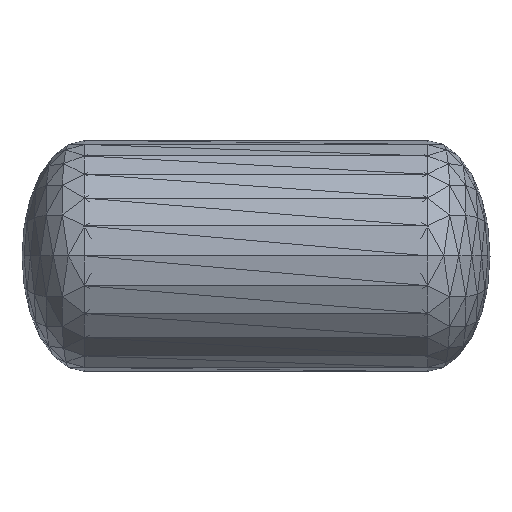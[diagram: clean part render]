
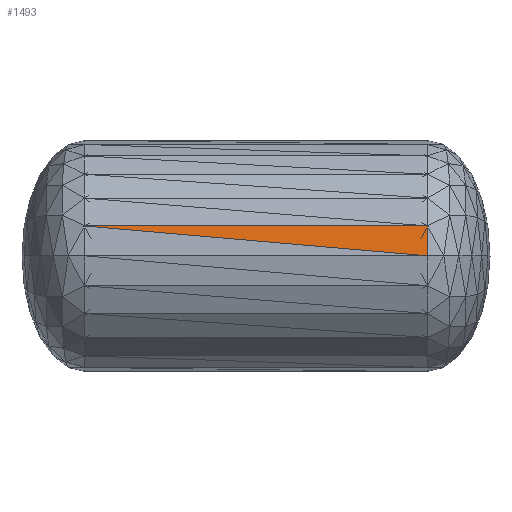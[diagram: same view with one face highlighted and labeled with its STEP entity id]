
A CAD part, top view. The second image highlights one B-rep face of the part: STEP entity #1493.
In plain terms, the highlighted planar face has unit normal (0, -0.13, -0.992).
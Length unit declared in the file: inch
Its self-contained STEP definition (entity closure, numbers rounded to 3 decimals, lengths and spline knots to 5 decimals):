
#1011=CARTESIAN_POINT('',(0.13756,0.02389,0.23932));
#1012=VERTEX_POINT('',#1011);
#1255=CARTESIAN_POINT('',(0.13756,-0.00005,0.24247));
#1256=VERTEX_POINT('',#1255);
#1257=CARTESIAN_POINT('',(0.13752,0.02389,0.23933));
#1258=DIRECTION('',(0.,-0.991,0.13));
#1259=VECTOR('',#1258,0.02415);
#1260=LINE('',#1257,#1259);
#1261=EDGE_CURVE('',#1012,#1256,#1260,.T.);
#1439=CARTESIAN_POINT('',(-0.13748,0.02389,0.23938));
#1440=VERTEX_POINT('',#1439);
#1447=CARTESIAN_POINT('',(0.13752,0.02389,0.23933));
#1448=DIRECTION('',(-1.,0.,0.));
#1449=VECTOR('',#1448,0.275);
#1450=LINE('',#1447,#1449);
#1451=EDGE_CURVE('',#1012,#1440,#1450,.T.);
#1474=CARTESIAN_POINT('',(-0.13748,0.02389,0.23938));
#1475=DIRECTION('',(0.996,-0.087,0.011));
#1476=VECTOR('',#1475,0.27606);
#1477=LINE('',#1474,#1476);
#1478=EDGE_CURVE('',#1440,#1256,#1477,.T.);
#1483=CARTESIAN_POINT('',(-0.13748,0.02389,0.23938));
#1484=DIRECTION('',(0.,0.13,0.991));
#1485=DIRECTION('',(1.,0.,0.));
#1486=AXIS2_PLACEMENT_3D('',#1483,#1484,#1485);
#1487=PLANE('',#1486);
#1488=ORIENTED_EDGE('',*,*,#1451,.F.);
#1489=ORIENTED_EDGE('',*,*,#1261,.T.);
#1490=ORIENTED_EDGE('',*,*,#1478,.F.);
#1491=EDGE_LOOP('',(#1488,#1489,#1490));
#1492=FACE_BOUND('',#1491,.T.);
#1493=ADVANCED_FACE('',(#1492),#1487,.F.);
